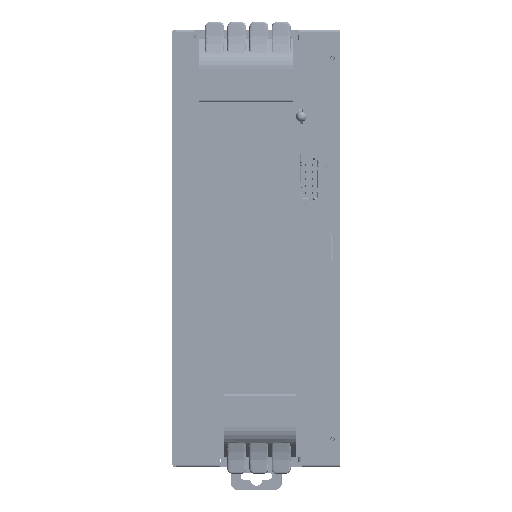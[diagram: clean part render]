
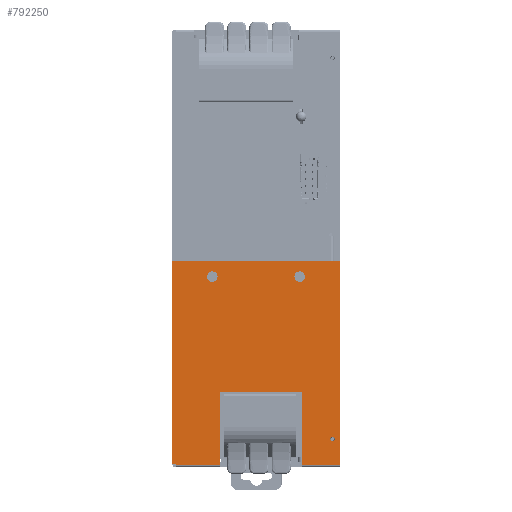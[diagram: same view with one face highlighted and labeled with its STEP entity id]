
A CAD part, left-side view. The second image highlights one B-rep face of the part: STEP entity #792250.
In plain terms, the highlighted planar face has unit normal (-1, 0, 0).
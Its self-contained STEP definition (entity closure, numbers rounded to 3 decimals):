
#788650=CARTESIAN_POINT('',(-36.647,34.455,0.));
#788660=DIRECTION('',(0.,0.,-1.));
#788670=VECTOR('',#788660,1.);
#788680=LINE('',#788650,#788670);
#788690=CARTESIAN_POINT('',(-36.647,34.455,
-28.275));
#788700=VERTEX_POINT('',#788690);
#788710=CARTESIAN_POINT('',(-36.647,34.455,
-49.15));
#788720=VERTEX_POINT('',#788710);
#788730=EDGE_CURVE('',#788700,#788720,#788680,.T.);
#791060=CARTESIAN_POINT('',(-36.647,31.986,92.23
));
#791070=DIRECTION('',(-1.,0.,0.));
#791080=DIRECTION('',(0.,0.,1.));
#791090=AXIS2_PLACEMENT_3D('',#791060,#791070,#791080);
#791100=PLANE('',#791090);
#791110=CARTESIAN_POINT('',(-36.647,25.786,
-41.804));
#791120=DIRECTION('',(-1.,0.,0.));
#791130=DIRECTION('',(0.,1.,0.));
#791140=AXIS2_PLACEMENT_3D('',#791110,#791120,#791130);
#791150=CIRCLE('',#791140,0.662);
#791160=CARTESIAN_POINT('',(-36.647,26.449,
-41.804));
#791170=VERTEX_POINT('',#791160);
#791180=CARTESIAN_POINT('',(-36.647,25.124,
-41.804));
#791190=VERTEX_POINT('',#791180);
#791200=EDGE_CURVE('',#791170,#791190,#791150,.T.);
#791210=ORIENTED_EDGE('',*,*,#791200,.F.);
#791220=EDGE_CURVE('',#791190,#791170,#791150,.T.);
#791230=ORIENTED_EDGE('',*,*,#791220,.F.);
#791240=EDGE_LOOP('',(#791230,#791210));
#791250=FACE_BOUND('',#791240,.T.);
#791260=CARTESIAN_POINT('',(-36.647,35.186,4.65
));
#791270=DIRECTION('',(1.,0.,0.));
#791280=DIRECTION('',(0.,0.,1.));
#791290=AXIS2_PLACEMENT_3D('',#791260,#791270,#791280);
#791300=CIRCLE('',#791290,1.5);
#791310=CARTESIAN_POINT('',(-36.647,35.186,6.15
));
#791320=VERTEX_POINT('',#791310);
#791330=CARTESIAN_POINT('',(-36.647,35.186,3.15
));
#791340=VERTEX_POINT('',#791330);
#791350=EDGE_CURVE('',#791320,#791340,#791300,.T.);
#791360=ORIENTED_EDGE('',*,*,#791350,.T.);
#791370=EDGE_CURVE('',#791340,#791320,#791300,.T.);
#791380=ORIENTED_EDGE('',*,*,#791370,.T.);
#791390=EDGE_LOOP('',(#791380,#791360));
#791400=FACE_BOUND('',#791390,.T.);
#791410=CARTESIAN_POINT('',(-36.647,60.186,4.65
));
#791420=DIRECTION('',(1.,0.,0.));
#791430=DIRECTION('',(0.,0.,1.));
#791440=AXIS2_PLACEMENT_3D('',#791410,#791420,#791430);
#791450=CIRCLE('',#791440,1.5);
#791460=CARTESIAN_POINT('',(-36.647,60.186,6.15
));
#791470=VERTEX_POINT('',#791460);
#791480=CARTESIAN_POINT('',(-36.647,60.186,3.15
));
#791490=VERTEX_POINT('',#791480);
#791500=EDGE_CURVE('',#791470,#791490,#791450,.T.);
#791510=ORIENTED_EDGE('',*,*,#791500,.T.);
#791520=EDGE_CURVE('',#791490,#791470,#791450,.T.);
#791530=ORIENTED_EDGE('',*,*,#791520,.T.);
#791540=EDGE_LOOP('',(#791530,#791510));
#791550=FACE_BOUND('',#791540,.T.);
#791560=CARTESIAN_POINT('',(-36.647,23.686,0.));
#791570=DIRECTION('',(0.,0.,-1.));
#791580=VECTOR('',#791570,1.);
#791590=LINE('',#791560,#791580);
#791600=CARTESIAN_POINT('',(-36.647,23.686,
9.));
#791610=VERTEX_POINT('',#791600);
#791620=CARTESIAN_POINT('',(-36.647,23.686,
-49.15));
#791630=VERTEX_POINT('',#791620);
#791640=EDGE_CURVE('',#791610,#791630,#791590,.T.);
#791650=ORIENTED_EDGE('',*,*,#791640,.F.);
#791660=CARTESIAN_POINT('',(-36.647,0.,-49.15));
#791670=DIRECTION('',(0.,1.,0.));
#791680=VECTOR('',#791670,1.);
#791690=LINE('',#791660,#791680);
#791700=EDGE_CURVE('',#791630,#788720,#791690,.T.);
#791710=ORIENTED_EDGE('',*,*,#791700,.F.);
#791720=ORIENTED_EDGE('',*,*,#788730,.T.);
#791730=CARTESIAN_POINT('',(-36.647,0.,-28.275));
#791740=DIRECTION('',(0.,1.,0.));
#791750=VECTOR('',#791740,1.);
#791760=LINE('',#791730,#791750);
#791770=CARTESIAN_POINT('',(-36.647,58.005,
-28.275));
#791780=VERTEX_POINT('',#791770);
#791790=EDGE_CURVE('',#788700,#791780,#791760,.T.);
#791800=ORIENTED_EDGE('',*,*,#791790,.F.);
#791810=CARTESIAN_POINT('',(-36.647,58.005,0.));
#791820=DIRECTION('',(0.,0.,1.));
#791830=VECTOR('',#791820,1.);
#791840=LINE('',#791810,#791830);
#791850=CARTESIAN_POINT('',(-36.647,58.005,
-49.15));
#791860=VERTEX_POINT('',#791850);
#791870=EDGE_CURVE('',#791860,#791780,#791840,.T.);
#791880=ORIENTED_EDGE('',*,*,#791870,.T.);
#791890=CARTESIAN_POINT('',(-36.647,70.686,-49.15
));
#791900=VERTEX_POINT('',#791890);
#791910=EDGE_CURVE('',#791860,#791900,#791690,.T.);
#791920=ORIENTED_EDGE('',*,*,#791910,.F.);
#791930=CARTESIAN_POINT('',(-36.647,70.686,0.));
#791940=DIRECTION('',(0.,0.,-1.));
#791950=VECTOR('',#791940,1.);
#791960=LINE('',#791930,#791950);
#791970=CARTESIAN_POINT('',(-36.647,70.686,-48.9
));
#791980=VERTEX_POINT('',#791970);
#791990=EDGE_CURVE('',#791980,#791900,#791960,.T.);
#792000=ORIENTED_EDGE('',*,*,#791990,.T.);
#792010=CARTESIAN_POINT('',(-36.647,0.,-48.9));
#792020=DIRECTION('',(0.,-1.,0.));
#792030=VECTOR('',#792020,1.);
#792040=LINE('',#792010,#792030);
#792050=CARTESIAN_POINT('',(-36.647,71.686,
-48.9));
#792060=VERTEX_POINT('',#792050);
#792070=EDGE_CURVE('',#792060,#791980,#792040,.T.);
#792080=ORIENTED_EDGE('',*,*,#792070,.T.);
#792090=CARTESIAN_POINT('',(-36.647,71.686,0.));
#792100=DIRECTION('',(0.,0.,1.));
#792110=VECTOR('',#792100,1.);
#792120=LINE('',#792090,#792110);
#792130=CARTESIAN_POINT('',(-36.647,71.686,
9.));
#792140=VERTEX_POINT('',#792130);
#792150=EDGE_CURVE('',#792060,#792140,#792120,.T.);
#792160=ORIENTED_EDGE('',*,*,#792150,.F.);
#792170=CARTESIAN_POINT('',(-36.647,0.,9.));
#792180=DIRECTION('',(0.,1.,0.));
#792190=VECTOR('',#792180,1.);
#792200=LINE('',#792170,#792190);
#792210=EDGE_CURVE('',#791610,#792140,#792200,.T.);
#792220=ORIENTED_EDGE('',*,*,#792210,.T.);
#792230=EDGE_LOOP('',(#792220,#792160,#792080,#792000,#791920,#791880,
#791800,#791720,#791710,#791650));
#792240=FACE_OUTER_BOUND('',#792230,.T.);
#792250=ADVANCED_FACE('',(#791250,#791400,#791550,#792240),#791100,.T.);
